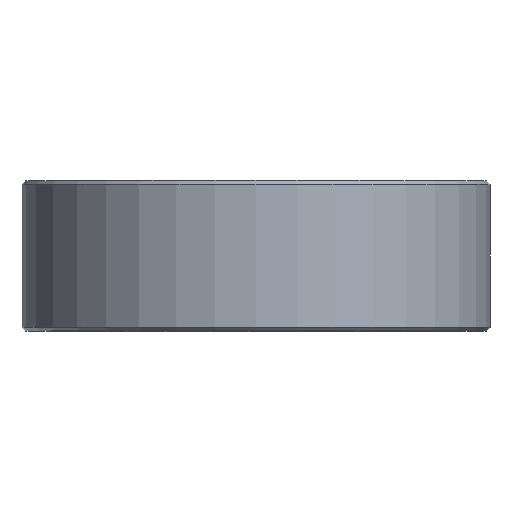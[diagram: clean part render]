
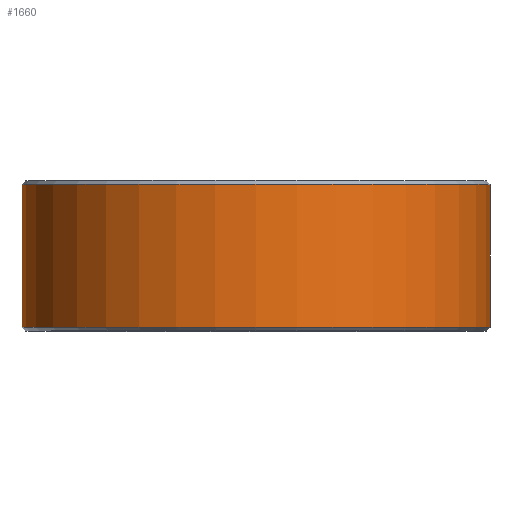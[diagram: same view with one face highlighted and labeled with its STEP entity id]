
A CAD part, top view. The second image highlights one B-rep face of the part: STEP entity #1660.
In plain terms, the highlighted cylindrical face has radius 12.45 mm (diameter 24.9 mm), a partial arc.
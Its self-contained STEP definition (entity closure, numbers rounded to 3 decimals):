
#59=DIRECTION('',(0.,-1.,0.));
#60=VECTOR('',#59,7.6);
#61=CARTESIAN_POINT('',(-12.45,7.8,0.));
#62=LINE('',#61,#60);
#376=CARTESIAN_POINT('',(0.,0.2,0.));
#377=DIRECTION('',(0.,-1.,0.));
#378=DIRECTION('',(1.,0.,0.));
#379=AXIS2_PLACEMENT_3D('',#376,#377,#378);
#381=CARTESIAN_POINT('',(0.,7.8,0.));
#382=DIRECTION('',(0.,1.,0.));
#383=DIRECTION('',(-1.,0.,0.));
#384=AXIS2_PLACEMENT_3D('',#381,#382,#383);
#386=DIRECTION('',(0.,-1.,0.));
#387=VECTOR('',#386,7.6);
#388=CARTESIAN_POINT('',(12.45,7.8,0.));
#389=LINE('',#388,#387);
#1267=CARTESIAN_POINT('',(12.45,7.8,0.));
#1268=VERTEX_POINT('',#1267);
#1269=CARTESIAN_POINT('',(-12.45,7.8,0.));
#1270=VERTEX_POINT('',#1269);
#1271=CARTESIAN_POINT('',(12.45,0.2,0.));
#1272=VERTEX_POINT('',#1271);
#1273=CARTESIAN_POINT('',(-12.45,0.2,0.));
#1274=VERTEX_POINT('',#1273);
#1648=CARTESIAN_POINT('',(0.,0.,0.));
#1649=DIRECTION('',(0.,1.,0.));
#1650=DIRECTION('',(1.,0.,0.));
#1651=AXIS2_PLACEMENT_3D('',#1648,#1649,#1650);
#1652=CYLINDRICAL_SURFACE('',#1651,12.45);
#1653=ORIENTED_EDGE('',*,*,#1472,.T.);
#1654=ORIENTED_EDGE('',*,*,#1503,.F.);
#1656=ORIENTED_EDGE('',*,*,#1655,.T.);
#1657=ORIENTED_EDGE('',*,*,#1499,.T.);
#1658=EDGE_LOOP('',(#1653,#1654,#1656,#1657));
#1659=FACE_OUTER_BOUND('',#1658,.F.);
#1660=ADVANCED_FACE('',(#1659),#1652,.T.);
#380=CIRCLE('',#379,12.45);
#385=CIRCLE('',#384,12.45);
#1472=EDGE_CURVE('',#1272,#1274,#380,.T.);
#1499=EDGE_CURVE('',#1268,#1272,#389,.T.);
#1503=EDGE_CURVE('',#1270,#1274,#62,.T.);
#1655=EDGE_CURVE('',#1270,#1268,#385,.T.);
